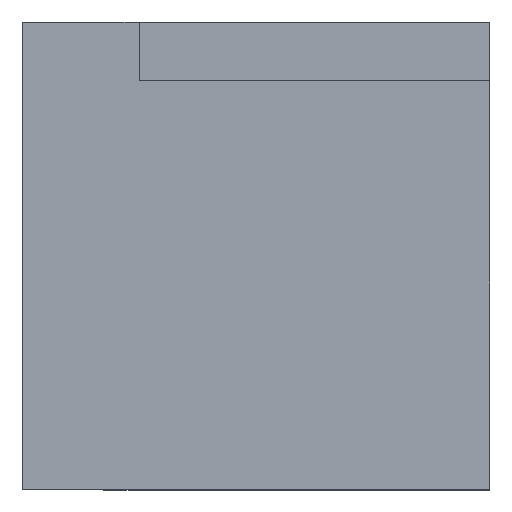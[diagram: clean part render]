
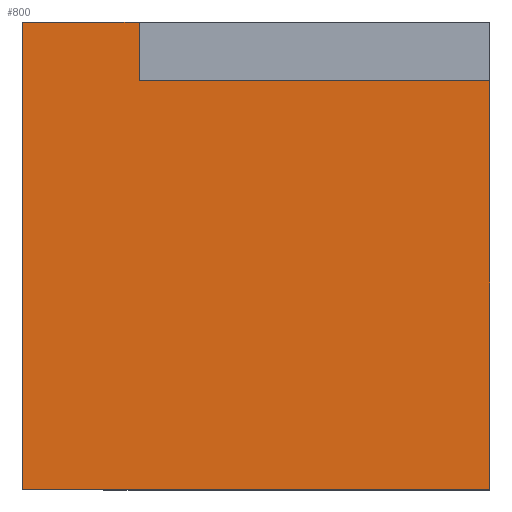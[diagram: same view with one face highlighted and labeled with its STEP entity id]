
A CAD part, top view. The second image highlights one B-rep face of the part: STEP entity #800.
In plain terms, the highlighted planar face has unit normal (0, 0, 1).
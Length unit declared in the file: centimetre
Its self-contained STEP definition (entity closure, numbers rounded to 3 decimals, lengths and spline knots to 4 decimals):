
#27 = VECTOR ( 'NONE', #1228, 100. ) ;
#92 = AXIS2_PLACEMENT_3D ( 'NONE', #496, #956, #285 ) ;
#101 = ORIENTED_EDGE ( 'NONE', *, *, #1045, .T. ) ;
#120 = ORIENTED_EDGE ( 'NONE', *, *, #1423, .T. ) ;
#150 = CARTESIAN_POINT ( 'NONE',  ( 0., 0., 1000. ) ) ;
#175 = CARTESIAN_POINT ( 'NONE',  ( 0., 1000., 1000. ) ) ;
#183 = LINE ( 'NONE', #305, #880 ) ;
#211 = VERTEX_POINT ( 'NONE', #920 ) ;
#285 = DIRECTION ( 'NONE',  ( 1., 0., 0. ) ) ;
#305 = CARTESIAN_POINT ( 'NONE',  ( 0., 1000., 1000. ) ) ;
#306 = VECTOR ( 'NONE', #1339, 100. ) ;
#437 = LINE ( 'NONE', #1102, #1088 ) ;
#445 = LINE ( 'NONE', #1011, #697 ) ;
#496 = CARTESIAN_POINT ( 'NONE',  ( 0., 0., 1000. ) ) ;
#508 = DIRECTION ( 'NONE',  ( -1., 0., 0. ) ) ;
#559 = DIRECTION ( 'NONE',  ( 0., 1., 0. ) ) ;
#573 = VERTEX_POINT ( 'NONE', #150 ) ;
#591 = EDGE_CURVE ( 'NONE', #859, #772, #758, .T. ) ;
#611 = VERTEX_POINT ( 'NONE', #175 ) ;
#697 = VECTOR ( 'NONE', #1424, 100. ) ;
#717 = CARTESIAN_POINT ( 'NONE',  ( 249.8638, 874.5123, 1000. ) ) ;
#758 = LINE ( 'NONE', #865, #878 ) ;
#772 = VERTEX_POINT ( 'NONE', #1046 ) ;
#800 = ADVANCED_FACE ( 'NONE', ( #847 ), #1293, .T. ) ;
#847 = FACE_OUTER_BOUND ( 'NONE', #1214, .T. ) ;
#854 = ORIENTED_EDGE ( 'NONE', *, *, #1259, .T. ) ;
#859 = VERTEX_POINT ( 'NONE', #717 ) ;
#865 = CARTESIAN_POINT ( 'NONE',  ( 249.8638, 874.5123, 1000. ) ) ;
#878 = VECTOR ( 'NONE', #1213, 100. ) ;
#880 = VECTOR ( 'NONE', #508, 100. ) ;
#902 = CARTESIAN_POINT ( 'NONE',  ( 0., 1000., 1000. ) ) ;
#920 = CARTESIAN_POINT ( 'NONE',  ( 249.8638, 1000., 1000. ) ) ;
#956 = DIRECTION ( 'NONE',  ( 0., 0., 1. ) ) ;
#995 = LINE ( 'NONE', #1440, #306 ) ;
#1011 = CARTESIAN_POINT ( 'NONE',  ( 0., 0., 1000. ) ) ;
#1034 = ORIENTED_EDGE ( 'NONE', *, *, #1044, .T. ) ;
#1044 = EDGE_CURVE ( 'NONE', #573, #1444, #445, .T. ) ;
#1045 = EDGE_CURVE ( 'NONE', #1444, #772, #437, .T. ) ;
#1046 = CARTESIAN_POINT ( 'NONE',  ( 1000., 874.5123, 1000. ) ) ;
#1088 = VECTOR ( 'NONE', #559, 100. ) ;
#1102 = CARTESIAN_POINT ( 'NONE',  ( 1000., 1000., 1000. ) ) ;
#1213 = DIRECTION ( 'NONE',  ( 1., 0., 0. ) ) ;
#1214 = EDGE_LOOP ( 'NONE', ( #1363, #1222, #854, #120, #1034, #101 ) ) ;
#1222 = ORIENTED_EDGE ( 'NONE', *, *, #1467, .F. ) ;
#1228 = DIRECTION ( 'NONE',  ( 0., -1., 0. ) ) ;
#1259 = EDGE_CURVE ( 'NONE', #211, #611, #183, .T. ) ;
#1293 = PLANE ( 'NONE',  #92 ) ;
#1339 = DIRECTION ( 'NONE',  ( 0., -1., 0. ) ) ;
#1350 = LINE ( 'NONE', #902, #27 ) ;
#1359 = CARTESIAN_POINT ( 'NONE',  ( 1000., 0., 1000. ) ) ;
#1363 = ORIENTED_EDGE ( 'NONE', *, *, #591, .F. ) ;
#1423 = EDGE_CURVE ( 'NONE', #611, #573, #1350, .T. ) ;
#1424 = DIRECTION ( 'NONE',  ( 1., 0., 0. ) ) ;
#1440 = CARTESIAN_POINT ( 'NONE',  ( 249.8638, 874.5123, 1000. ) ) ;
#1444 = VERTEX_POINT ( 'NONE', #1359 ) ;
#1467 = EDGE_CURVE ( 'NONE', #211, #859, #995, .T. ) ;
